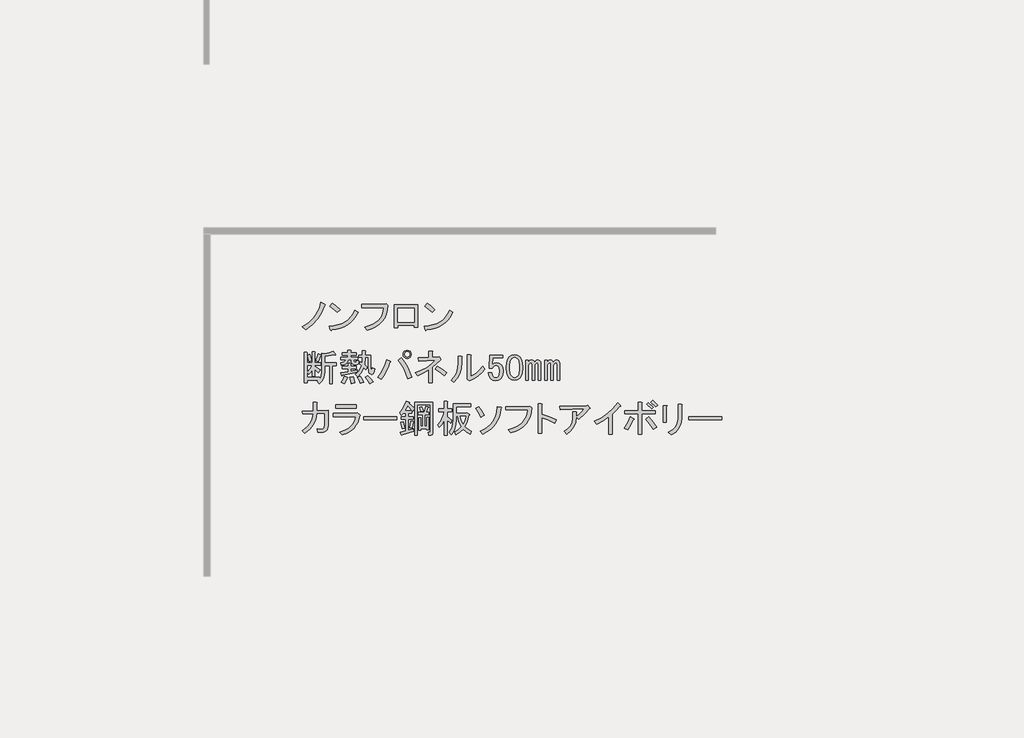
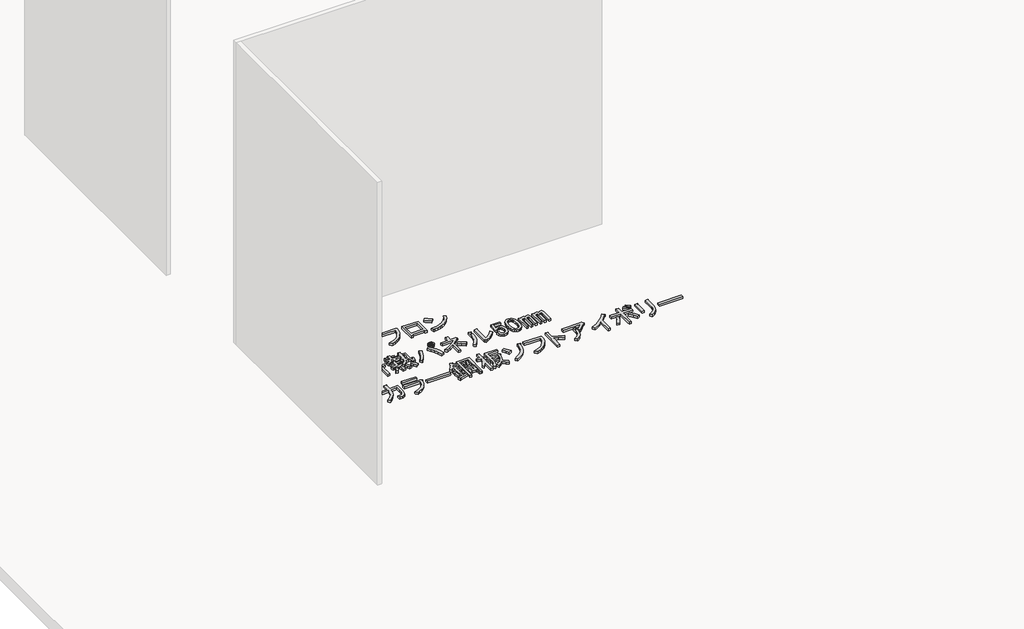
# One storey, part 65 of 117: 1 proxy.
"""IFC4 building model written with IfcOpenShell, lengths in millimetres."""

from ifc_helpers import new_model, si_unit, frame, origin, place, context, project, spatial, polyline, outline, extrude, element, save

model = new_model("IFC4")

# Units and contexts
model_context = context("Model", 3, world=origin())
ifc_project = project(units=[si_unit("LENGTHUNIT", "METRE", prefix="MILLI")], contexts=[model_context])

# Site, building, storey
site = spatial("IfcSite", under=ifc_project)
building = spatial("IfcBuilding", under=site)
storey = spatial("IfcBuildingStorey", under=building, Name="レベル 1", Elevation=500.0)

# Proxy
placement = place(None, origin())
element("IfcBuildingElementProxy", 1, Name="200㎜\u3000MS Pゴシック", ObjectType="200㎜\u3000MS Pゴシック", at=placement, inside=storey, context=model_context, shape_type="SweptSolid", body=[
    extrude(outline(polyline([(-23056.3293015, 7392.9503118), (-23081.9047498, 7333.1784775), (-23110.353844, 7287.2001434), (-23152.0217093, 7241.7965385), (-23201.1610538, 7204.439142), (-23228.7480543, 7226.2788507), (-23181.0455327, 7256.7394971), (-23141.3892195, 7295.2463519), (-23124.0036619, 7319.1694538), (-23108.6296565, 7347.2593423), (-23095.2672031, 7379.5160173), (-23083.9163019, 7415.9394788), (-23052.8809264, 7402.1459786), (-23049.7199159, 7397.5481452), (-23056.3293015, 7392.9503118)])), frame((0.0, 0.0, 500.0), z_axis=(0.0, 0.0, 1.0), x_axis=(1.0, 0.0, 0.0)), (0.0, 0.0, 1.0), 25.0),
    extrude(outline(polyline([(-22956.6022948, 7337.7763109), (-23015.2246708, 7384.9041033), (-22995.6838788, 7409.0427287), (-22968.3842429, 7389.2145721), (-22934.7625862, 7359.6160196), (-22956.6022948, 7337.7763109)])), frame((0.0, 0.0, 500.0), z_axis=(0.0, 0.0, 1.0), x_axis=(1.0, 0.0, 0.0)), (0.0, 0.0, 1.0), 25.0),
    extrude(outline(polyline([(-22794.5286672, 7337.7763109), (-22811.052131, 7308.034076), (-22830.1618761, 7282.0275808), (-22851.8579025, 7259.7568252), (-22876.1402102, 7241.2218093), (-22903.0087992, 7226.422533), (-22932.4636694, 7215.3589964), (-22964.504821, 7208.0311994), (-22999.1322539, 7204.439142), (-23004.8795456, 7196.3929336), (-23010.6268374, 7202.1402253), (-23019.8225042, 7232.0261425), (-22983.9917321, 7234.7022252), (-22951.2142088, 7241.0062859), (-22921.4899342, 7250.9383244), (-22894.8189084, 7264.4983409), (-22871.2011313, 7281.6863354), (-22850.636603, 7302.5023077), (-22833.1253234, 7326.946258), (-22818.6672926, 7355.0181862), (-22794.5286672, 7337.7763109)])), frame((0.0, 0.0, 500.0), z_axis=(0.0, 0.0, 1.0), x_axis=(1.0, 0.0, 0.0)), (0.0, 0.0, 1.0), 25.0),
    extrude(outline(polyline([(-22743.7685864, 7222.8304757), (-22709.985287, 7232.5110702), (-22680.4765359, 7244.8857078), (-22655.242333, 7259.9543884), (-22634.2826783, 7277.717112), (-22617.597572, 7298.1738786), (-22605.1870138, 7321.3246882), (-22597.0510039, 7347.1695409), (-22593.1895423, 7375.7084365), (-22765.6082951, 7375.7084365), (-22765.6082951, 7400.9965202), (-22590.8906256, 7400.9965202), (-22574.7982086, 7404.4448953), (-22562.1541668, 7392.9503118), (-22565.674383, 7356.4550091), (-22573.9361149, 7323.4080815), (-22586.9393625, 7293.8095289), (-22604.6841258, 7267.6593514), (-22627.1704048, 7244.957549), (-22654.3981995, 7225.7041216), (-22686.3675099, 7209.8990692), (-22723.078336, 7197.5423919), (-22743.7685864, 7222.8304757)])), frame((0.0, 0.0, 500.0), z_axis=(0.0, 0.0, 1.0), x_axis=(1.0, 0.0, 0.0)), (0.0, 0.0, 1.0), 25.0),
    extrude(outline(polyline([(-22329.044013, 7223.979934), (-22355.4815551, 7223.979934), (-22355.4815551, 7236.6239759), (-22483.0714321, 7236.6239759), (-22483.0714321, 7218.2326423), (-22509.5089742, 7218.2326423), (-22509.5089742, 7397.5481452), (-22329.044013, 7397.5481452), (-22329.044013, 7223.979934)]), holes=[polyline([(-22483.0714321, 7372.2600614), (-22483.0714321, 7261.9120596), (-22355.4815551, 7261.9120596), (-22355.4815551, 7372.2600614), (-22483.0714321, 7372.2600614)])]), frame((0.0, 0.0, 500.0), z_axis=(0.0, 0.0, 1.0), x_axis=(1.0, 0.0, 0.0)), (0.0, 0.0, 1.0), 25.0),
    extrude(outline(polyline([(-22052.9900951, 7337.7763109), (-22069.5135589, 7308.034076), (-22088.623304, 7282.0275808), (-22110.3193304, 7259.7568252), (-22134.6016381, 7241.2218093), (-22161.4702271, 7226.422533), (-22190.9250974, 7215.3589964), (-22222.9662489, 7208.0311994), (-22257.5936818, 7204.439142), (-22263.3409736, 7196.3929336), (-22269.0882653, 7202.1402253), (-22278.2839321, 7232.0261425), (-22242.4531601, 7234.7022252), (-22209.6756367, 7241.0062859), (-22179.9513622, 7250.9383244), (-22153.2803363, 7264.4983409), (-22129.6625593, 7281.6863354), (-22109.0980309, 7302.5023077), (-22091.5867514, 7326.946258), (-22077.1287205, 7355.0181862), (-22052.9900951, 7337.7763109)])), frame((0.0, 0.0, 500.0), z_axis=(0.0, 0.0, 1.0), x_axis=(1.0, 0.0, 0.0)), (0.0, 0.0, 1.0), 25.0),
    extrude(outline(polyline([(-22215.0637228, 7337.7763109), (-22273.6860987, 7384.9041033), (-22254.1453067, 7409.0427287), (-22226.8456709, 7389.2145721), (-22193.2240141, 7359.6160196), (-22215.0637228, 7337.7763109)])), frame((0.0, 0.0, 500.0), z_axis=(0.0, 0.0, 1.0), x_axis=(1.0, 0.0, 0.0)), (0.0, 0.0, 1.0), 25.0),
    extrude(outline(polyline([(-23122.9978859, 6960.7654779), (-23105.7560106, 7013.6405621), (-23085.0657603, 7007.8932704), (-23083.3415727, 7004.7322599), (-23087.364677, 7002.1459786), (-23104.6065522, 6953.8687278), (-23122.9978859, 6960.7654779)])), frame((0.0, 0.0, 500.0), z_axis=(0.0, 0.0, 1.0), x_axis=(1.0, 0.0, 0.0)), (0.0, 0.0, 1.0), 25.0),
    extrude(outline(polyline([(-22968.9704667, 7009.0427287), (-22970.6946542, 7004.4448953), (-22978.1661335, 7006.743812), (-23055.1798431, 6994.0997701), (-23055.1798431, 6944.673061), (-22963.2231749, 6944.673061), (-22963.2231749, 6922.8333523), (-22994.2585505, 6922.8333523), (-22994.2585505, 6782.5994334), (-23017.2477175, 6782.5994334), (-23017.2477175, 6922.8333523), (-23055.1798431, 6922.8333523), (-23055.1798431, 6873.4066432), (-23057.7661244, 6845.6041193), (-23065.5249683, 6820.8189236), (-23078.4563747, 6799.051056), (-23096.5603438, 6780.3005167), (-23113.8022191, 6799.8413086), (-23103.4570939, 6809.0369755), (-23193.1148454, 6809.0369755), (-23193.1148454, 6787.1972668), (-23216.1040124, 6787.1972668), (-23216.1040124, 7026.284604), (-23194.2643037, 7026.284604), (-23189.3791057, 7023.9856873), (-23193.1148454, 7019.3878539), (-23193.1148454, 6943.5236026), (-23150.5848863, 6943.5236026), (-23150.5848863, 7030.8824374), (-23132.1935527, 7030.8824374), (-23127.3083547, 7028.5835207), (-23131.0440943, 7023.9856873), (-23131.0440943, 6943.5236026), (-23087.364677, 6943.5236026), (-23087.364677, 6925.132269), (-23131.0440943, 6925.132269), (-23131.0440943, 6915.9366022), (-23090.813052, 6889.4990601), (-23104.6065522, 6867.6593514), (-23131.0440943, 6894.0968935), (-23131.0440943, 6841.2218093), (-23150.5848863, 6841.2218093), (-23150.5848863, 6889.4990601), (-23163.8036574, 6869.6709035), (-23178.1718868, 6853.8658512), (-23190.8159287, 6872.2571848), (-23168.97622, 6896.3958102), (-23151.7343447, 6925.132269), (-23193.1148454, 6925.132269), (-23193.1148454, 6830.8766841), (-23095.4108854, 6830.8766841), (-23095.4108854, 6817.0831839), (-23082.479479, 6841.2218093), (-23078.1690102, 6874.5561015), (-23078.1690102, 7019.3878539), (-23056.3293015, 7013.6405621), (-23020.1213634, 7021.1120414), (-22989.660717, 7034.3308125), (-22968.9704667, 7009.0427287)])), frame((0.0, 0.0, 500.0), z_axis=(0.0, 0.0, 1.0), x_axis=(1.0, 0.0, 0.0)), (0.0, 0.0, 1.0), 25.0),
    extrude(outline(polyline([(-23177.0224284, 6952.7192695), (-23189.6664703, 7003.2954369), (-23170.1256783, 7010.1921871), (-23162.3668344, 6986.0535617), (-23157.4816364, 6959.6160196), (-23177.0224284, 6952.7192695)])), frame((0.0, 0.0, 500.0), z_axis=(0.0, 0.0, 1.0), x_axis=(1.0, 0.0, 0.0)), (0.0, 0.0, 1.0), 25.0),
    extrude(outline(polyline([(-22878.1632569, 6832.0261425), (-22874.7148818, 6827.1409445), (-22880.4621736, 6823.979934), (-22890.2325696, 6798.4044857), (-22901.1524239, 6779.1510583), (-22924.141591, 6790.6456418), (-22911.4975491, 6814.209538), (-22901.1524239, 6841.2218093), (-22878.1632569, 6832.0261425)])), frame((0.0, 0.0, 500.0), z_axis=(0.0, 0.0, 1.0), x_axis=(1.0, 0.0, 0.0)), (0.0, 0.0, 1.0), 25.0),
    extrude(outline(polyline([(-22833.3343812, 6836.6239759), (-22823.2766206, 6809.32434), (-22818.3914226, 6787.1972668), (-22847.1278814, 6781.449975), (-22849.7141627, 6803.0023191), (-22857.4730066, 6833.1756008), (-22833.3343812, 6836.6239759)])), frame((0.0, 0.0, 500.0), z_axis=(0.0, 0.0, 1.0), x_axis=(1.0, 0.0, 0.0)), (0.0, 0.0, 1.0), 25.0),
    extrude(outline(polyline([(-22718.388546, 6842.3712677), (-22693.6751914, 6821.1062881), (-22674.7091286, 6796.3929336), (-22701.1466707, 6781.449975), (-22720.4000981, 6811.0485276), (-22739.0787963, 6830.8766841), (-22718.388546, 6842.3712677)])), frame((0.0, 0.0, 500.0), z_axis=(0.0, 0.0, 1.0), x_axis=(1.0, 0.0, 0.0)), (0.0, 0.0, 1.0), 25.0),
    extrude(outline(polyline([(-22777.0109219, 6783.7488917), (-22785.344495, 6808.4622463), (-22798.8506306, 6829.7272258), (-22778.1603803, 6837.7734343), (-22761.2058696, 6816.2210902), (-22749.4239215, 6792.9445585), (-22777.0109219, 6783.7488917)])), frame((0.0, 0.0, 500.0), z_axis=(0.0, 0.0, 1.0), x_axis=(1.0, 0.0, 0.0)), (0.0, 0.0, 1.0), 25.0),
    extrude(outline(polyline([(-22916.0953825, 6846.9691011), (-22918.1069346, 6842.0839031), (-22921.8426743, 6843.520726), (-22927.589966, 6867.6593514), (-22872.4159651, 6875.7055599), (-22872.4159651, 6898.6947269), (-22916.0953825, 6898.6947269), (-22916.0953825, 6917.0860605), (-22872.4159651, 6917.0860605), (-22872.4159651, 6940.0752276), (-22854.0246315, 6940.0752276), (-22849.1394335, 6937.7763109), (-22852.8751732, 6933.1784775), (-22852.8751732, 6917.0860605), (-22808.0462974, 6917.0860605), (-22808.0462974, 6898.6947269), (-22852.8751732, 6898.6947269), (-22852.8751732, 6879.1539349), (-22802.2990057, 6888.3496017), (-22802.2990057, 6872.2571848), (-22916.0953825, 6846.9691011)])), frame((0.0, 0.0, 500.0), z_axis=(0.0, 0.0, 1.0), x_axis=(1.0, 0.0, 0.0)), (0.0, 0.0, 1.0), 25.0),
    extrude(outline(polyline([(-22845.978423, 6968.8116864), (-22871.2665068, 6968.8116864), (-22875.8643402, 6951.3542877), (-22886.2094654, 6938.0636755), (-22902.3018823, 6928.9398498), (-22924.141591, 6923.9828107), (-22928.7394244, 6943.5236026), (-22903.4513406, 6952.1445403), (-22895.9798614, 6959.4723373), (-22891.9567571, 6968.8116864), (-22927.589966, 6968.8116864), (-22927.589966, 6987.20302), (-22873.5654235, 6987.20302), (-22873.5654235, 7004.4448953), (-22917.2448409, 7004.4448953), (-22917.2448409, 7022.8362289), (-22873.5654235, 7022.8362289), (-22873.5654235, 7041.2275626), (-22851.7257148, 7041.2275626), (-22846.8405168, 7038.9286459), (-22850.5762564, 7034.3308125), (-22850.5762564, 7022.8362289), (-22808.0462974, 7022.8362289), (-22808.0462974, 7004.4448953), (-22850.5762564, 7004.4448953), (-22850.5762564, 6987.20302), (-22797.7011723, 6987.20302), (-22797.7011723, 6968.8116864), (-22826.4376311, 6968.8116864), (-22826.4376311, 6956.1676445), (-22825.0008081, 6950.9950819), (-22820.6903393, 6949.2708944), (-22810.3452141, 6949.2708944), (-22806.6094745, 6952.4319049), (-22806.8968391, 6961.9149363), (-22787.3560471, 6959.6160196), (-22790.229693, 6938.0636755), (-22795.5459378, 6932.6755894), (-22803.448464, 6930.8795608), (-22827.5870894, 6930.8795608), (-22841.3805896, 6935.7647588), (-22845.978423, 6950.4203528), (-22845.978423, 6968.8116864)])), frame((0.0, 0.0, 500.0), z_axis=(0.0, 0.0, 1.0), x_axis=(1.0, 0.0, 0.0)), (0.0, 0.0, 1.0), 25.0),
    extrude(outline(polyline([(-22714.9401709, 6986.0535617), (-22736.7798796, 6986.0535617), (-22741.377713, 6928.5806441), (-22721.836921, 6910.1893104), (-22732.1820462, 6888.3496017), (-22748.2744631, 6904.4420187), (-22767.5278905, 6866.7972576), (-22797.7011723, 6834.3250592), (-22814.9430475, 6855.0153095), (-22799.8564067, 6866.9409399), (-22786.7813179, 6882.0275808), (-22775.7177813, 6900.2752321), (-22766.6657967, 6921.683894), (-22783.907672, 6936.6268525), (-22775.8614636, 6953.8687278), (-22762.0679633, 6943.5236026), (-22759.7690466, 6986.0535617), (-22787.3560471, 6986.0535617), (-22787.3560471, 7004.4448953), (-22759.7690466, 7004.4448953), (-22759.7690466, 7038.9286459), (-22737.9293379, 7038.9286459), (-22733.04414, 7036.6297292), (-22736.7798796, 7032.0318957), (-22736.7798796, 7004.4448953), (-22695.3993789, 7004.4448953), (-22695.3993789, 6907.8903937), (-22691.9510039, 6883.7517683), (-22688.7181523, 6881.7402162), (-22685.9163475, 6884.9012267), (-22681.6058787, 6906.7409354), (-22662.0650867, 6899.8441853), (-22666.591079, 6873.0474374), (-22674.421764, 6857.0268616), (-22685.5571418, 6851.7824579), (-22699.9972123, 6857.3142262), (-22706.5347567, 6864.6420232), (-22711.2044313, 6876.280289), (-22714.9401709, 6912.4882271), (-22714.9401709, 6986.0535617)])), frame((0.0, 0.0, 500.0), z_axis=(0.0, 0.0, 1.0), x_axis=(1.0, 0.0, 0.0)), (0.0, 0.0, 1.0), 25.0),
    extrude(outline(polyline([(-22456.3120417, 6983.754645), (-22429.6589762, 6947.0438188), (-22407.1726971, 6909.3272167), (-22388.8532047, 6870.6048384), (-22374.7004987, 6830.8766841), (-22405.7358742, 6820.531559), (-22421.1817208, 6863.6362472), (-22438.7828018, 6902.143102), (-22458.5391173, 6936.0521234), (-22480.4506671, 6965.3633113), (-22456.3120417, 6983.754645)])), frame((0.0, 0.0, 500.0), z_axis=(0.0, 0.0, 1.0), x_axis=(1.0, 0.0, 0.0)), (0.0, 0.0, 1.0), 25.0),
    extrude(outline(polyline([(-22543.6708765, 6957.3171029), (-22539.6477722, 6951.8571757), (-22545.9697932, 6946.9719777), (-22557.8954236, 6911.5542922), (-22572.9820644, 6877.717112), (-22591.2297158, 6845.460437), (-22612.6383776, 6814.7842672), (-22639.0759197, 6832.0261425), (-22615.8712292, 6863.4925649), (-22596.8333252, 6896.9705394), (-22581.9622078, 6932.460066), (-22571.2578769, 6969.9611447), (-22543.6708765, 6957.3171029)])), frame((0.0, 0.0, 500.0), z_axis=(0.0, 0.0, 1.0), x_axis=(1.0, 0.0, 0.0)), (0.0, 0.0, 1.0), 25.0),
    extrude(outline(polyline([(-22410.3337076, 6978.0073532), (-22422.9777495, 6980.3062699), (-22433.3228747, 6987.20302), (-22440.2196248, 6997.5481452), (-22442.5185415, 7010.1921871), (-22440.2196248, 7022.8362289), (-22433.3228747, 7033.1813541), (-22422.9777495, 7040.0781042), (-22410.3337076, 7042.3770209), (-22397.6896657, 7040.0781042), (-22387.3445406, 7033.1813541), (-22380.4477905, 7022.8362289), (-22378.1488738, 7010.1921871), (-22380.4477905, 6997.5481452), (-22387.3445406, 6987.20302), (-22397.6896657, 6980.3062699), (-22410.3337076, 6978.0073532)]), holes=[polyline([(-22410.3337076, 6989.5019367), (-22402.0001346, 6990.9387597), (-22395.390749, 6995.2492285), (-22391.0802802, 7001.858614), (-22389.6434573, 7010.1921871), (-22391.0802802, 7018.5257601), (-22395.390749, 7025.1351456), (-22402.0001346, 7029.4456145), (-22410.3337076, 7030.8824374), (-22418.6672807, 7029.4456145), (-22425.2766662, 7025.1351456), (-22429.587135, 7018.5257601), (-22431.023958, 7010.1921871), (-22429.587135, 7001.858614), (-22425.2766662, 6995.2492285), (-22418.6672807, 6990.9387597), (-22410.3337076, 6989.5019367)])]), frame((0.0, 0.0, 500.0), z_axis=(0.0, 0.0, 1.0), x_axis=(1.0, 0.0, 0.0)), (0.0, 0.0, 1.0), 25.0),
    extrude(outline(polyline([(-22120.6702029, 6844.6701844), (-22157.7402348, 6873.9813723), (-22190.7871624, 6895.2463519), (-22173.5452871, 6917.0860605), (-22134.7510677, 6893.8095289), (-22101.1294109, 6867.6593514), (-22120.6702029, 6844.6701844)])), frame((0.0, 0.0, 500.0), z_axis=(0.0, 0.0, 1.0), x_axis=(1.0, 0.0, 0.0)), (0.0, 0.0, 1.0), 25.0),
    extrude(outline(polyline([(-22166.648537, 6988.3524784), (-22159.7517869, 6990.6513951), (-22147.107745, 6973.4095198), (-22145.9582866, 6967.3748634), (-22151.7055784, 6965.3633113), (-22214.9257878, 6909.0398521), (-22214.9257878, 6788.3467251), (-22241.3633299, 6788.3467251), (-22241.3633299, 6890.6485184), (-22281.5943722, 6866.5098931), (-22326.4232479, 6844.6701844), (-22345.9640399, 6865.3604347), (-22300.4167527, 6884.8293855), (-22259.1799343, 6907.6030291), (-22222.2535848, 6933.6813655), (-22189.637704, 6963.0643946), (-22319.5264978, 6957.3171029), (-22322.9748729, 6982.6051866), (-22241.3633299, 6984.9041033), (-22241.3633299, 7036.6297292), (-22218.3741628, 7036.6297292), (-22212.3395065, 7033.1813541), (-22214.9257878, 7027.4340623), (-22214.9257878, 6986.0535617), (-22166.648537, 6988.3524784)])), frame((0.0, 0.0, 500.0), z_axis=(0.0, 0.0, 1.0), x_axis=(1.0, 0.0, 0.0)), (0.0, 0.0, 1.0), 25.0),
    extrude(outline(polyline([(-22067.703162, 6806.7380587), (-22042.5587606, 6835.9774056), (-22024.5984738, 6868.5214452), (-22013.8223018, 6904.3701775), (-22010.2302444, 6943.5236026), (-22010.2302444, 6995.2492285), (-21986.091619, 6995.2492285), (-21980.3443273, 6991.8008534), (-21983.7927023, 6986.0535617), (-21983.7927023, 6944.673061), (-21987.6002831, 6898.9102504), (-21999.0230255, 6858.17632), (-22018.0609295, 6822.4712699), (-22044.713995, 6791.7951002), (-22067.703162, 6806.7380587)])), frame((0.0, 0.0, 500.0), z_axis=(0.0, 0.0, 1.0), x_axis=(1.0, 0.0, 0.0)), (0.0, 0.0, 1.0), 25.0),
    extrude(outline(polyline([(-21913.6757429, 6837.7734343), (-21888.8905471, 6849.9864292), (-21865.1111275, 6867.0846222), (-21842.3374839, 6889.0680132), (-21820.5696163, 6915.9366022), (-21804.4771994, 6894.0968935), (-21827.753731, 6866.2943696), (-21853.9039086, 6842.6586322), (-21882.9277319, 6823.1896814), (-21914.8252012, 6807.8875171), (-21924.020868, 6803.2896837), (-21942.4122017, 6817.0831839), (-21940.113285, 6822.8304757), (-21940.113285, 7007.8932704), (-21915.9746596, 7007.8932704), (-21910.2273678, 7004.4448953), (-21913.6757429, 6998.6976035), (-21913.6757429, 6837.7734343)])), frame((0.0, 0.0, 500.0), z_axis=(0.0, 0.0, 1.0), x_axis=(1.0, 0.0, 0.0)), (0.0, 0.0, 1.0), 25.0),
    extrude(outline(polyline([(-21763.0966987, 7004.4448953), (-21664.2432805, 7004.4448953), (-21664.2432805, 6982.6051866), (-21741.2569901, 6982.6051866), (-21741.2569901, 6979.1568116), (-21744.7053651, 6936.6268525), (-21745.8548235, 6929.7301024), (-21730.3371357, 6940.0752276), (-21713.6699896, 6943.5236026), (-21692.6923747, 6939.787863), (-21675.737864, 6928.5806441), (-21663.6685513, 6908.7524875), (-21659.6454471, 6881.4528516), (-21664.8180096, 6846.9691011), (-21671.2837129, 6833.1756008), (-21680.3356974, 6821.6810173), (-21698.4396664, 6809.6117046), (-21720.5667397, 6805.5886004), (-21741.5443546, 6809.32434), (-21758.4988653, 6820.531559), (-21770.568178, 6839.2102572), (-21776.890199, 6865.3604347), (-21750.4526569, 6865.3604347), (-21746.4295526, 6846.6817365), (-21738.9580734, 6834.3250592), (-21731.1992295, 6829.1524966), (-21721.7161981, 6827.4283091), (-21709.3595208, 6829.4398612), (-21699.8764894, 6835.4745175), (-21690.393458, 6852.4290282), (-21687.2324475, 6878.0044766), (-21689.8187288, 6902.143102), (-21697.5775727, 6917.0860605), (-21705.049052, 6922.2586231), (-21713.6699896, 6923.9828107), (-21726.6013961, 6921.3965294), (-21737.808615, 6913.6376855), (-21747.0042818, 6903.2925603), (-21769.9934489, 6903.2925603), (-21768.8439905, 6911.3387688), (-21763.0966987, 6999.8470619), (-21763.0966987, 7004.4448953)])), frame((0.0, 0.0, 500.0), z_axis=(0.0, 0.0, 1.0), x_axis=(1.0, 0.0, 0.0)), (0.0, 0.0, 1.0), 25.0),
    extrude(outline(polyline([(-21634.3573633, 6918.2355189), (-21632.9205404, 6941.7994151), (-21628.6100716, 6961.9149363), (-21621.4259569, 6978.5820824), (-21611.3681963, 6991.8008534), (-21593.2642272, 7003.8701661), (-21571.137154, 7007.8932704), (-21549.0100807, 7003.8701661), (-21530.9061116, 6991.8008534), (-21520.8483511, 6978.5820824), (-21513.6642364, 6961.9149363), (-21509.3537675, 6941.7994151), (-21507.9169446, 6918.2355189), (-21507.9169446, 6895.2463519), (-21509.3537675, 6872.1853437), (-21513.6642364, 6852.4290282), (-21520.8483511, 6835.9774056), (-21530.9061116, 6822.8304757), (-21549.0100807, 6810.761163), (-21571.137154, 6806.7380587), (-21593.2642272, 6810.761163), (-21611.3681963, 6822.8304757), (-21621.4259569, 6835.9774056), (-21628.6100716, 6852.4290282), (-21632.9205404, 6872.1853437), (-21634.3573633, 6895.2463519), (-21634.3573633, 6918.2355189)]), holes=[polyline([(-21571.137154, 6986.0535617), (-21582.0570083, 6983.754645), (-21591.8274043, 6976.8578948), (-21598.3649487, 6967.7340692), (-21603.0346232, 6955.3055507), (-21606.7703629, 6920.5344356), (-21606.7703629, 6894.0968935), (-21602.7472586, 6859.9005075), (-21597.7183783, 6847.3283068), (-21590.6779459, 6837.7734343), (-21581.1949145, 6830.8766841), (-21571.137154, 6828.5777674), (-21560.2172996, 6830.8766841), (-21550.4469036, 6837.7734343), (-21543.9093592, 6846.8972599), (-21539.2396847, 6859.3257784), (-21535.503945, 6894.0968935), (-21535.503945, 6920.5344356), (-21539.2396847, 6955.3055507), (-21543.9093592, 6967.7340692), (-21550.4469036, 6976.8578948), (-21560.2172996, 6983.754645), (-21571.137154, 6986.0535617)])]), frame((0.0, 0.0, 500.0), z_axis=(0.0, 0.0, 1.0), x_axis=(1.0, 0.0, 0.0)), (0.0, 0.0, 1.0), 25.0),
    extrude(outline(polyline([(-21463.0880689, 6806.7380587), (-21482.6288608, 6806.7380587), (-21482.6288608, 6964.213853), (-21463.0880689, 6964.213853), (-21463.0880689, 6946.9719777), (-21451.0187562, 6962.4896654), (-21437.7999851, 6967.662228), (-21428.6043183, 6966.2254051), (-21421.7075682, 6961.9149363), (-21414.8108181, 6948.121436), (-21401.8794116, 6962.77703), (-21388.373276, 6967.662228), (-21380.0397029, 6966.2254051), (-21373.4303174, 6961.9149363), (-21368.2577548, 6953.2939986), (-21366.5335673, 6941.2246859), (-21366.5335673, 6806.7380587), (-21386.0743593, 6806.7380587), (-21386.0743593, 6930.8795608), (-21388.6606406, 6940.3625922), (-21396.4194844, 6943.5236026), (-21406.7646096, 6938.9257692), (-21412.799266, 6930.3048316), (-21414.8108181, 6920.5344356), (-21414.8108181, 6806.7380587), (-21434.3516101, 6806.7380587), (-21434.3516101, 6930.8795608), (-21436.9378914, 6940.3625922), (-21444.6967352, 6943.5236026), (-21455.0418604, 6938.9257692), (-21461.0765167, 6930.3048316), (-21463.0880689, 6920.5344356), (-21463.0880689, 6806.7380587)])), frame((0.0, 0.0, 500.0), z_axis=(0.0, 0.0, 1.0), x_axis=(1.0, 0.0, 0.0)), (0.0, 0.0, 1.0), 25.0),
    extrude(outline(polyline([(-21241.2426069, 6967.662228), (-21232.9090339, 6966.2254051), (-21226.2996483, 6961.9149363), (-21221.1270858, 6953.2939986), (-21219.4028982, 6941.2246859), (-21219.4028982, 6806.7380587), (-21238.9436902, 6806.7380587), (-21238.9436902, 6930.8795608), (-21241.5299715, 6940.3625922), (-21249.2888154, 6943.5236026), (-21259.6339406, 6938.9257692), (-21265.6685969, 6930.3048316), (-21267.680149, 6920.5344356), (-21267.680149, 6806.7380587), (-21287.220941, 6806.7380587), (-21287.220941, 6930.8795608), (-21289.8072223, 6940.3625922), (-21297.5660662, 6943.5236026), (-21307.9111913, 6938.9257692), (-21313.9458477, 6930.3048316), (-21315.9573998, 6920.5344356), (-21315.9573998, 6806.7380587), (-21335.4981918, 6806.7380587), (-21335.4981918, 6964.213853), (-21315.9573998, 6964.213853), (-21315.9573998, 6946.9719777), (-21303.8880871, 6962.4896654), (-21290.6693161, 6967.662228), (-21281.4736492, 6966.2254051), (-21274.5768991, 6961.9149363), (-21267.680149, 6948.121436), (-21254.7487426, 6962.77703), (-21241.2426069, 6967.662228)])), frame((0.0, 0.0, 500.0), z_axis=(0.0, 0.0, 1.0), x_axis=(1.0, 0.0, 0.0)), (0.0, 0.0, 1.0), 25.0),
    extrude(outline(polyline([(-23052.8809264, 6549.2708944), (-23118.4000525, 6546.9719777), (-23126.6617844, 6500.706279), (-23144.55023, 6459.6131429), (-23172.0653893, 6423.6925694), (-23209.2072623, 6392.9445585), (-23228.7480543, 6412.4853505), (-23193.7614157, 6440.7189213), (-23168.1141262, 6472.5445494), (-23151.8061858, 6507.9622349), (-23144.8375946, 6546.9719777), (-23226.4491376, 6544.673061), (-23228.7480543, 6567.662228), (-23143.6881362, 6569.9611447), (-23143.6881362, 6634.3308125), (-23119.5495108, 6634.3308125), (-23112.6527607, 6630.8824374), (-23117.2505941, 6625.1351456), (-23117.2505941, 6569.9611447), (-23026.4433843, 6573.4095198), (-23026.4433843, 6502.143102), (-23029.0296656, 6454.1532158), (-23036.7885095, 6422.8304757), (-23043.397895, 6412.7727151), (-23052.8809264, 6405.5886004), (-23065.2376037, 6401.2781316), (-23080.4679269, 6399.8413086), (-23108.0549273, 6399.8413086), (-23111.5033024, 6428.5777674), (-23081.6173852, 6426.2788507), (-23067.5365204, 6429.1524966), (-23059.7776765, 6437.7734343), (-23054.6051139, 6463.061518), (-23052.8809264, 6502.143102), (-23052.8809264, 6549.2708944)])), frame((0.0, 0.0, 500.0), z_axis=(0.0, 0.0, 1.0), x_axis=(1.0, 0.0, 0.0)), (0.0, 0.0, 1.0), 25.0),
    extrude(outline(polyline([(-22938.0270479, 6403.2896837), (-22888.3848153, 6421.6091762), (-22868.1435721, 6433.7323697), (-22850.9555777, 6447.8311948), (-22836.820832, 6463.9056515), (-22825.7393351, 6481.9557397), (-22817.7110869, 6501.9814594), (-22812.7360875, 6523.9828107), (-22987.453757, 6523.9828107), (-22987.453757, 6549.2708944), (-22811.5866291, 6549.2708944), (-22801.241504, 6552.7192695), (-22780.5512536, 6540.0752276), (-22777.6776078, 6534.6153004), (-22782.8501703, 6529.7301024), (-22788.9746281, 6502.2508637), (-22798.1523347, 6477.2860651), (-22810.3832899, 6454.8357067), (-22825.667494, 6434.8997884), (-22844.0049467, 6417.4783102), (-22865.3956483, 6402.5712722), (-22889.8395985, 6390.1786744), (-22917.3367975, 6380.3005167), (-22938.0270479, 6403.2896837)])), frame((0.0, 0.0, 500.0), z_axis=(0.0, 0.0, 1.0), x_axis=(1.0, 0.0, 0.0)), (0.0, 0.0, 1.0), 25.0),
    extrude(outline(polyline([(-22808.1382541, 6589.5019367), (-22966.7635067, 6589.5019367), (-22966.7635067, 6614.7900205), (-22808.1382541, 6614.7900205), (-22808.1382541, 6589.5019367)])), frame((0.0, 0.0, 500.0), z_axis=(0.0, 0.0, 1.0), x_axis=(1.0, 0.0, 0.0)), (0.0, 0.0, 1.0), 25.0),
    extrude(outline(polyline([(-22749.1020731, 6498.6947269), (-22749.1020731, 6523.9828107), (-22492.7728606, 6523.9828107), (-22492.7728606, 6498.6947269), (-22749.1020731, 6498.6947269)])), frame((0.0, 0.0, 500.0), z_axis=(0.0, 0.0, 1.0), x_axis=(1.0, 0.0, 0.0)), (0.0, 0.0, 1.0), 25.0),
    extrude(outline(polyline([(-22350.515895, 6634.3308125), (-22210.281976, 6634.3308125), (-22210.281976, 6394.0940169), (-22214.0177157, 6382.8867979), (-22225.2249346, 6379.1510583), (-22241.3173515, 6379.1510583), (-22245.9151849, 6400.990767), (-22234.4206014, 6400.990767), (-22230.9722264, 6402.1402253), (-22229.822768, 6405.5886004), (-22229.822768, 6615.9394788), (-22330.975103, 6615.9394788), (-22330.975103, 6376.8521416), (-22350.515895, 6376.8521416), (-22350.515895, 6634.3308125)])), frame((0.0, 0.0, 500.0), z_axis=(0.0, 0.0, 1.0), x_axis=(1.0, 0.0, 0.0)), (0.0, 0.0, 1.0), 25.0),
    extrude(outline(polyline([(-22362.0104785, 6486.050685), (-22359.4241972, 6482.8896746), (-22363.1599368, 6480.3033933), (-22371.2061453, 6433.1756008), (-22389.5974789, 6435.4745175), (-22383.8501872, 6489.4990601), (-22362.0104785, 6486.050685)])), frame((0.0, 0.0, 500.0), z_axis=(0.0, 0.0, 1.0), x_axis=(1.0, 0.0, 0.0)), (0.0, 0.0, 1.0), 25.0),
    extrude(outline(polyline([(-22365.4588536, 6565.3633113), (-22406.8393542, 6609.0427287), (-22428.6790629, 6569.9611447), (-22373.505062, 6569.9611447), (-22373.505062, 6551.5698111), (-22399.9426041, 6551.5698111), (-22399.9426041, 6522.8333523), (-22362.0104785, 6522.8333523), (-22362.0104785, 6504.4420187), (-22399.9426041, 6504.4420187), (-22399.9426041, 6417.0831839), (-22360.8610201, 6427.4283091), (-22358.5621034, 6407.8875171), (-22450.5187716, 6382.5994334), (-22452.8176883, 6376.8521416), (-22457.4155217, 6380.3005167), (-22464.3122718, 6403.2896837), (-22419.4833961, 6412.4853505), (-22419.4833961, 6504.4420187), (-22457.4155217, 6504.4420187), (-22457.4155217, 6522.8333523), (-22419.4833961, 6522.8333523), (-22419.4833961, 6551.5698111), (-22441.3231048, 6551.5698111), (-22456.2660634, 6533.1784775), (-22468.9101052, 6553.8687278), (-22440.7483756, 6591.5134888), (-22416.035021, 6642.3770209), (-22394.1953124, 6636.6297292), (-22390.7469373, 6632.8939895), (-22396.4942291, 6630.8824374), (-22397.6436874, 6627.4340623), (-22352.8148117, 6589.5019367), (-22365.4588536, 6565.3633113)])), frame((0.0, 0.0, 500.0), z_axis=(0.0, 0.0, 1.0), x_axis=(1.0, 0.0, 0.0)), (0.0, 0.0, 1.0), 25.0),
    extrude(outline(polyline([(-22297.6408108, 6602.1459786), (-22290.4566961, 6586.9156554), (-22284.9967689, 6566.5127697), (-22302.2386442, 6560.7654779), (-22313.7332277, 6597.5481452), (-22297.6408108, 6602.1459786)])), frame((0.0, 0.0, 500.0), z_axis=(0.0, 0.0, 1.0), x_axis=(1.0, 0.0, 0.0)), (0.0, 0.0, 1.0), 25.0),
    extrude(outline(polyline([(-22244.7657266, 6600.9965202), (-22242.1794453, 6597.5481452), (-22248.2141016, 6594.0997701), (-22260.8581435, 6556.1676445), (-22240.1678932, 6556.1676445), (-22240.1678932, 6537.7763109), (-22271.2032687, 6537.7763109), (-22271.2032687, 6449.2680178), (-22256.2603101, 6449.2680178), (-22256.2603101, 6517.0860605), (-22240.1678932, 6517.0860605), (-22240.1678932, 6422.8304757), (-22256.2603101, 6422.8304757), (-22256.2603101, 6430.8766841), (-22302.2386442, 6430.8766841), (-22302.2386442, 6418.2326423), (-22318.3310611, 6418.2326423), (-22318.3310611, 6514.7871438), (-22302.2386442, 6514.7871438), (-22302.2386442, 6449.2680178), (-22287.2956856, 6449.2680178), (-22287.2956856, 6537.7763109), (-22322.9288945, 6537.7763109), (-22322.9288945, 6556.1676445), (-22276.9505604, 6556.1676445), (-22266.6054353, 6605.5943537), (-22244.7657266, 6600.9965202)])), frame((0.0, 0.0, 500.0), z_axis=(0.0, 0.0, 1.0), x_axis=(1.0, 0.0, 0.0)), (0.0, 0.0, 1.0), 25.0),
    extrude(outline(polyline([(-22439.0241881, 6484.9012267), (-22427.5296046, 6433.1756008), (-22448.2198549, 6427.4283091), (-22459.7144384, 6479.1539349), (-22439.0241881, 6484.9012267)])), frame((0.0, 0.0, 500.0), z_axis=(0.0, 0.0, 1.0), x_axis=(1.0, 0.0, 0.0)), (0.0, 0.0, 1.0), 25.0),
    extrude(outline(polyline([(-22039.0126816, 6405.5886004), (-22010.2762228, 6422.8304757), (-21988.4365141, 6444.6701844), (-22006.2531185, 6486.6254142), (-22016.0235145, 6527.4311857), (-22028.6675564, 6527.4311857), (-22028.6675564, 6503.2925603), (-22031.1101554, 6461.5528539), (-22038.4379524, 6427.1409445), (-22050.6509474, 6400.0568321), (-22067.7491404, 6380.3005167), (-22081.5426406, 6403.2896837), (-22068.4675518, 6420.6752413), (-22059.1282027, 6442.9459968), (-22053.5245933, 6470.1019504), (-22051.6567234, 6502.143102), (-22051.6567234, 6622.8362289), (-21914.8711796, 6622.8362289), (-21914.8711796, 6600.9965202), (-22028.6675564, 6600.9965202), (-22028.6675564, 6549.2708944), (-21949.3549301, 6549.2708944), (-21943.6076384, 6555.0181862), (-21924.0668464, 6541.2246859), (-21922.6300234, 6537.4889463), (-21927.5152214, 6533.1784775), (-21939.8718987, 6486.6254142), (-21958.5505969, 6445.8196427), (-21939.5845341, 6427.4283091), (-21907.9744294, 6409.0369755), (-21917.1700963, 6384.8983501), (-21945.0444613, 6400.990767), (-21973.4935555, 6426.2788507), (-21997.9195455, 6401.8528608), (-22029.8170148, 6381.449975), (-22039.0126816, 6405.5886004)]), holes=[polyline([(-21994.1838058, 6527.4311857), (-21986.1375974, 6494.3842581), (-21973.4935555, 6466.5098931), (-21960.8495136, 6492.6600706), (-21952.8033052, 6527.4311857), (-21994.1838058, 6527.4311857)])]), frame((0.0, 0.0, 500.0), z_axis=(0.0, 0.0, 1.0), x_axis=(1.0, 0.0, 0.0)), (0.0, 0.0, 1.0), 25.0),
    extrude(outline(polyline([(-22121.7736829, 6376.8521416), (-22121.7736829, 6496.3958102), (-22139.5902874, 6462.1994242), (-22158.5563502, 6440.072351), (-22170.0509337, 6460.7626013), (-22152.8090584, 6483.4644037), (-22139.0155582, 6507.8903937), (-22128.670433, 6534.0405712), (-22121.7736829, 6561.9149363), (-22163.1541836, 6561.9149363), (-22163.1541836, 6583.754645), (-22121.7736829, 6583.754645), (-22121.7736829, 6643.5264793), (-22099.9339742, 6643.5264793), (-22095.0487762, 6641.2275626), (-22098.7845159, 6636.6297292), (-22098.7845159, 6583.754645), (-22060.8523903, 6583.754645), (-22060.8523903, 6561.9149363), (-22098.7845159, 6561.9149363), (-22098.7845159, 6521.683894), (-22060.8523903, 6495.2463519), (-22071.1975154, 6472.2571848), (-22098.7845159, 6495.2463519), (-22098.7845159, 6376.8521416), (-22121.7736829, 6376.8521416)])), frame((0.0, 0.0, 500.0), z_axis=(0.0, 0.0, 1.0), x_axis=(1.0, 0.0, 0.0)), (0.0, 0.0, 1.0), 25.0),
    extrude(outline(polyline([(-21741.3029684, 6482.60231), (-21729.1618145, 6503.4362426), (-21719.1758951, 6530.3048316), (-21711.3452101, 6563.2080769), (-21705.6697595, 6602.1459786), (-21676.9333007, 6597.5481452), (-21672.0481027, 6593.8124055), (-21678.082759, 6587.20302), (-21683.3271628, 6551.8571757), (-21692.1636238, 6519.3849772), (-21704.5921423, 6489.7864247), (-21720.6127181, 6463.061518), (-21736.705135, 6444.0954552), (-21758.5448437, 6425.1293924), (-21819.4661363, 6387.1972668), (-21840.1563867, 6407.8875171), (-21809.4083758, 6423.7644106), (-21782.6834691, 6441.5091739), (-21759.9816666, 6461.121807), (-21741.3029684, 6482.60231)])), frame((0.0, 0.0, 500.0), z_axis=(0.0, 0.0, 1.0), x_axis=(1.0, 0.0, 0.0)), (0.0, 0.0, 1.0), 25.0),
    extrude(outline(polyline([(-21835.5585533, 6520.5344356), (-21855.961439, 6559.9033842), (-21875.7895956, 6588.3524784), (-21850.5015118, 6602.1459786), (-21830.3859907, 6573.4095198), (-21809.1210112, 6535.4773942), (-21835.5585533, 6520.5344356)])), frame((0.0, 0.0, 500.0), z_axis=(0.0, 0.0, 1.0), x_axis=(1.0, 0.0, 0.0)), (0.0, 0.0, 1.0), 25.0),
    extrude(outline(polyline([(-21619.6902747, 6422.8304757), (-21585.9069754, 6432.5110702), (-21556.3982242, 6444.8857078), (-21531.1640214, 6459.9543884), (-21510.2043667, 6477.717112), (-21493.5192603, 6498.1738786), (-21481.1087022, 6521.3246882), (-21472.9726923, 6547.1695409), (-21469.1112306, 6575.7084365), (-21641.5299834, 6575.7084365), (-21641.5299834, 6600.9965202), (-21466.8123139, 6600.9965202), (-21450.719897, 6604.4448953), (-21438.0758551, 6592.9503118), (-21441.5960713, 6556.4550091), (-21449.8578032, 6523.4080815), (-21462.8610508, 6493.8095289), (-21480.6058141, 6467.6593514), (-21503.0920932, 6444.957549), (-21530.3198879, 6425.7041216), (-21562.2891983, 6409.8990692), (-21599.0000244, 6397.5423919), (-21619.6902747, 6422.8304757)])), frame((0.0, 0.0, 500.0), z_axis=(0.0, 0.0, 1.0), x_axis=(1.0, 0.0, 0.0)), (0.0, 0.0, 1.0), 25.0),
    extrude(outline(polyline([(-21357.8436622, 6542.3741443), (-21301.2328383, 6523.4080815), (-21244.0472853, 6498.6947269), (-21257.8407855, 6472.2571848), (-21313.302151, 6498.1199977), (-21357.8436622, 6513.6376855), (-21357.8436622, 6394.0940169), (-21384.2812042, 6394.0940169), (-21384.2812042, 6623.9856873), (-21361.2920372, 6623.9856873), (-21353.5331933, 6621.1120414), (-21357.8436622, 6614.7900205), (-21357.8436622, 6542.3741443)])), frame((0.0, 0.0, 500.0), z_axis=(0.0, 0.0, 1.0), x_axis=(1.0, 0.0, 0.0)), (0.0, 0.0, 1.0), 25.0),
    extrude(outline(polyline([(-21089.5600828, 6521.683894), (-21093.3676636, 6480.4470756), (-21107.0893227, 6444.0954552), (-21130.72506, 6412.6290328), (-21164.2748757, 6386.0478084), (-21183.8156677, 6407.8875171), (-21154.1452739, 6428.1467206), (-21132.9521356, 6452.1416637), (-21120.2362526, 6479.8723464), (-21115.9976249, 6511.3387688), (-21115.9976249, 6560.7654779), (-21091.8589995, 6560.7654779), (-21086.1117077, 6558.1791966), (-21089.5600828, 6552.7192695), (-21089.5600828, 6522.8333523), (-21053.0647801, 6553.5813632), (-21026.3398734, 6583.754645), (-21213.7015848, 6576.8578948), (-21216.0005015, 6603.2954369), (-21006.7990814, 6609.0427287), (-20998.752873, 6611.3416454), (-20981.5109977, 6590.6513951), (-20981.2236331, 6587.4903846), (-20987.2582895, 6587.20302), (-21025.1904151, 6543.8109672), (-21070.0192908, 6503.2925603), (-21089.5600828, 6521.683894)])), frame((0.0, 0.0, 500.0), z_axis=(0.0, 0.0, 1.0), x_axis=(1.0, 0.0, 0.0)), (0.0, 0.0, 1.0), 25.0),
    extrude(outline(polyline([(-20947.7169221, 6488.3496017), (-20891.0342572, 6516.2239668), (-20841.6793892, 6549.2708944), (-20799.6523182, 6587.4903846), (-20764.9530442, 6630.8824374), (-20743.1133355, 6612.4911038), (-20740.5270542, 6606.4564474), (-20751.1595439, 6602.1459786), (-20776.1602631, 6573.1221552), (-20807.4830032, 6543.5236026), (-20807.4830032, 6387.1972668), (-20833.9205453, 6387.1972668), (-20833.9205453, 6521.683894), (-20877.5999627, 6492.0853414), (-20928.1761302, 6465.3604347), (-20947.7169221, 6488.3496017)])), frame((0.0, 0.0, 500.0), z_axis=(0.0, 0.0, 1.0), x_axis=(1.0, 0.0, 0.0)), (0.0, 0.0, 1.0), 25.0),
    extrude(outline(polyline([(-20523.6587469, 6521.683894), (-20487.4508088, 6479.7286641), (-20461.5879959, 6441.2218093), (-20486.8760796, 6423.979934), (-20513.6009863, 6465.0730701), (-20545.4984556, 6503.2925603), (-20523.6587469, 6521.683894)])), frame((0.0, 0.0, 500.0), z_axis=(0.0, 0.0, 1.0), x_axis=(1.0, 0.0, 0.0)), (0.0, 0.0, 1.0), 25.0),
    extrude(outline(polyline([(-20578.8327478, 6571.1106031), (-20473.0825794, 6571.1106031), (-20473.0825794, 6545.8225193), (-20578.8327478, 6545.8225193), (-20578.8327478, 6386.0478084), (-20605.2702899, 6386.0478084), (-20605.2702899, 6545.8225193), (-20708.7215416, 6545.8225193), (-20708.7215416, 6571.1106031), (-20605.2702899, 6571.1106031), (-20605.2702899, 6635.4802708), (-20581.1316645, 6635.4802708), (-20574.2349144, 6632.0318957), (-20578.8327478, 6626.284604), (-20578.8327478, 6571.1106031)])), frame((0.0, 0.0, 500.0), z_axis=(0.0, 0.0, 1.0), x_axis=(1.0, 0.0, 0.0)), (0.0, 0.0, 1.0), 25.0),
    extrude(outline(polyline([(-20639.7540405, 6507.8903937), (-20637.4551238, 6503.0051957), (-20644.3518739, 6499.8441853), (-20663.8926659, 6461.0499659), (-20688.0312912, 6420.531559), (-20713.319375, 6434.3250592), (-20686.8818329, 6476.8550182), (-20665.0421242, 6521.683894), (-20639.7540405, 6507.8903937)])), frame((0.0, 0.0, 500.0), z_axis=(0.0, 0.0, 1.0), x_axis=(1.0, 0.0, 0.0)), (0.0, 0.0, 1.0), 25.0),
    extrude(outline(polyline([(-20500.6695799, 6583.754645), (-20538.6017055, 6619.3878539), (-20524.8082053, 6633.1813541), (-20486.8760796, 6598.6976035), (-20500.6695799, 6583.754645)])), frame((0.0, 0.0, 500.0), z_axis=(0.0, 0.0, 1.0), x_axis=(1.0, 0.0, 0.0)), (0.0, 0.0, 1.0), 25.0),
    extrude(outline(polyline([(-20468.484746, 6599.8470619), (-20506.4168716, 6637.7791875), (-20491.473913, 6650.4232294), (-20453.5417874, 6613.6405621), (-20468.484746, 6599.8470619)])), frame((0.0, 0.0, 500.0), z_axis=(0.0, 0.0, 1.0), x_axis=(1.0, 0.0, 0.0)), (0.0, 0.0, 1.0), 25.0),
    extrude(outline(polyline([(-20265.9501844, 6505.591477), (-20270.9790647, 6465.504117), (-20286.0657055, 6431.4514133), (-20311.210107, 6403.433366), (-20346.412269, 6381.449975), (-20369.4014361, 6400.990767), (-20336.138985, 6420.531559), (-20312.215883, 6444.6701844), (-20297.6321302, 6473.4066432), (-20292.3877265, 6506.7409354), (-20292.3877265, 6621.6867706), (-20268.2491011, 6621.6867706), (-20261.9270801, 6618.2383955), (-20265.9501844, 6612.4911038), (-20265.9501844, 6505.591477)])), frame((0.0, 0.0, 500.0), z_axis=(0.0, 0.0, 1.0), x_axis=(1.0, 0.0, 0.0)), (0.0, 0.0, 1.0), 25.0),
    extrude(outline(polyline([(-20384.3443946, 6480.3033933), (-20410.7819367, 6480.3033933), (-20410.7819367, 6610.1921871), (-20385.493853, 6610.1921871), (-20379.4591966, 6607.3185412), (-20384.3443946, 6600.9965202), (-20384.3443946, 6480.3033933)])), frame((0.0, 0.0, 500.0), z_axis=(0.0, 0.0, 1.0), x_axis=(1.0, 0.0, 0.0)), (0.0, 0.0, 1.0), 25.0),
    extrude(outline(polyline([(-20209.6267251, 6498.6947269), (-20209.6267251, 6523.9828107), (-19953.2975126, 6523.9828107), (-19953.2975126, 6498.6947269), (-20209.6267251, 6498.6947269)])), frame((0.0, 0.0, 500.0), z_axis=(0.0, 0.0, 1.0), x_axis=(1.0, 0.0, 0.0)), (0.0, 0.0, 1.0), 25.0),
])

save(model, "model.ifc")
